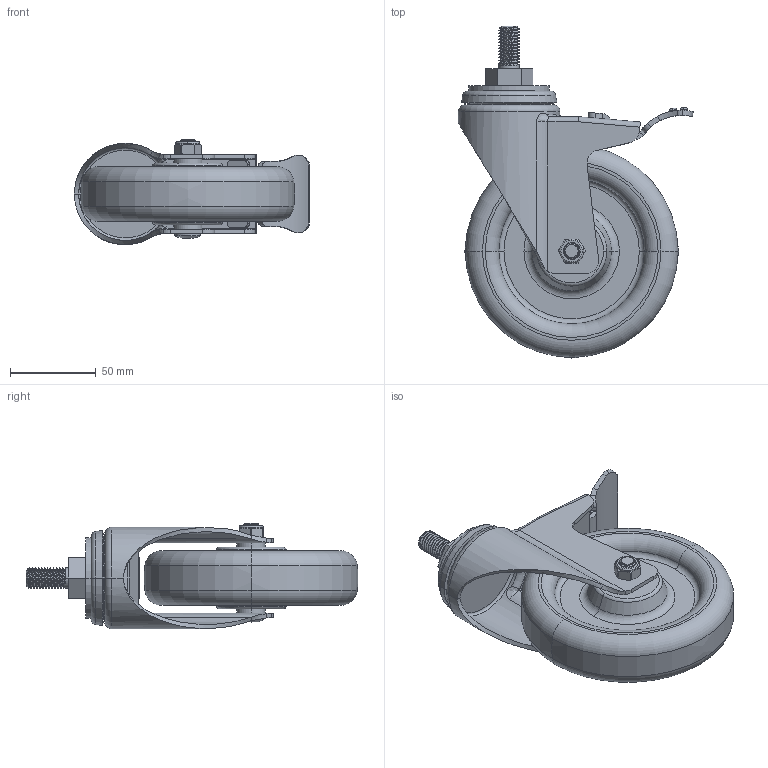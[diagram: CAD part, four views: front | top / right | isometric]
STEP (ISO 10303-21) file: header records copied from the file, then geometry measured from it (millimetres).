
FILE_DESCRIPTION((''),'2;1');
FILE_NAME('50145L-505-86_ASM','2020-01-01T',('L'),(''),'PRO/ENGINEER BY PARAMETRIC TECHNOLOGY CORPORATION, 2010280','PRO/ENGINEER BY PARAMETRIC TECHNOLOGY CORPORATION, 2010280','');
FILE_SCHEMA(('CONFIG_CONTROL_DESIGN'));
Length unit declared in the file: millimetre
Products named in the file (6): 50145; 540-14; 505-986; 570-33; 570-34; 50145L-505-86_ASM
Assembly tree (5 placements, depth 2):
  50145L-505-86_ASM
    50145
    540-14
    505-986
    570-33
    570-34
Bounding box: 137.36 x 193.95 x 61.65 mm (x, y, z)
Volume: 375001 mm3; surface area: 87247.6 mm2
Topology: 9 solids, 9 shells, 341 faces, 822 edges, 509 vertices
Faces by surface type: cylinder 129, plane 92, bspline 56, torus 32, cone 30, sphere 2
Entity records: 18224 total; most frequent: CARTESIAN_POINT 10621, ORIENTED_EDGE 1640, DIRECTION 1412, EDGE_CURVE 820, AXIS2_PLACEMENT_3D 539, VERTEX_POINT 509, EDGE_LOOP 361, FACE_OUTER_BOUND 341
